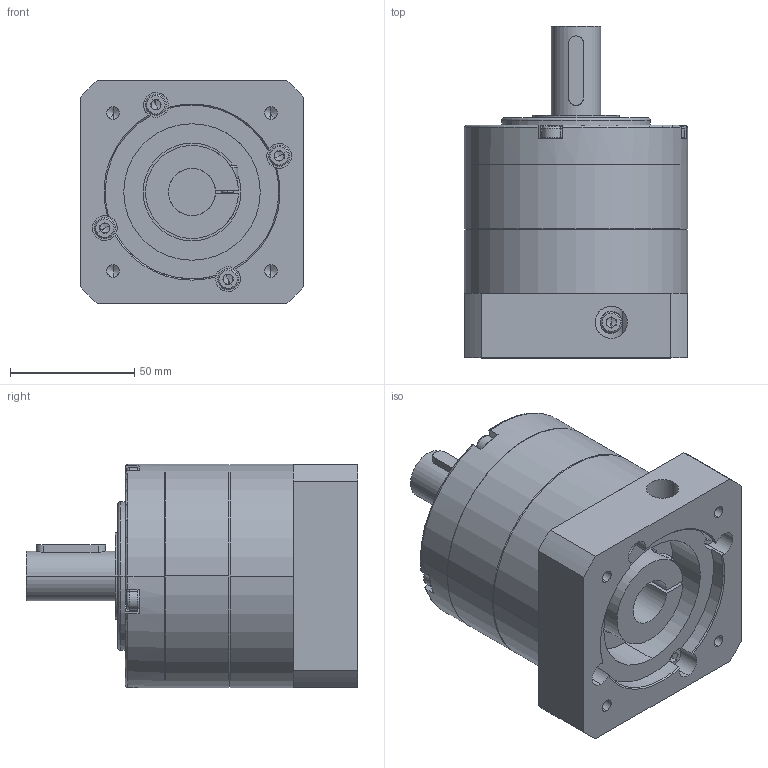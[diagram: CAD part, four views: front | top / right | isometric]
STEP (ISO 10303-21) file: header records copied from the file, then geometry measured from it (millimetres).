
FILE_DESCRIPTION (( 'STEP AP203' ), '1' );
FILE_NAME ('1G3XS.070090.031.STEP', '2022-07-26T03:41:02', ( '' ), ( '' ), 'SwSTEP 2.0', 'SolidWorks 2010', '' );
FILE_SCHEMA (( 'CONFIG_CONTROL_DESIGN' ));
Length unit declared in the file: millimetre
Products named in the file (10): 沉頭內六角M5xP0.8x20L_CB5-5; 1G3XS.070090.031; M5､ｺ､ｻｨ､ﾁｳｵｷ[ｼﾒｲﾕ､ﾆ]8~95mm_020mm; M4､ｺ､ｻｨ､ﾁｳｵｷ[ｼﾒｲﾕ､ﾆ]12~70mm_M4xP0.7x30L; PNS80-FP(模型)_4.成品; PBE90-CMB(234BN33201)_成品; PAN34-B(插齒模型)_7.縮短; 雙圓鍵6x28; PAN34-BP(模型)_1.?19; 沉頭內六角M5xP0.8x15L_CB5-5
Assembly tree (18 placements, depth 2):
  1G3XS.070090.031
    沉頭內六角M5xP0.8x20L_CB5-5  x4
    PAN34-BP(模型)_1.?19
    M4､ｺ､ｻｨ､ﾁｳｵｷ[ｼﾒｲﾕ､ﾆ]12~70mm_M4xP0.7x30L  x4
    雙圓鍵6x28
    M5､ｺ､ｻｨ､ﾁｳｵｷ[ｼﾒｲﾕ､ﾆ]8~95mm_020mm  x4
    PNS80-FP(模型)_4.成品
    沉頭內六角M5xP0.8x15L_CB5-5
    PBE90-CMB(234BN33201)_成品
    PAN34-B(插齒模型)_7.縮短
Bounding box: 90 x 133.7 x 90 mm (x, y, z)
Volume: 589660.8 mm3; surface area: 111857 mm2
Topology: 18 solids, 18 shells, 614 faces, 1444 edges, 888 vertices
Faces by surface type: plane 243, cylinder 232, cone 117, torus 20, bspline 2
Entity records: 17040 total; most frequent: CARTESIAN_POINT 6074, DIRECTION 2162, ORIENTED_EDGE 1900, EDGE_CURVE 950, AXIS2_PLACEMENT_3D 874, VERTEX_POINT 612, EDGE_LOOP 492, CIRCLE 451
